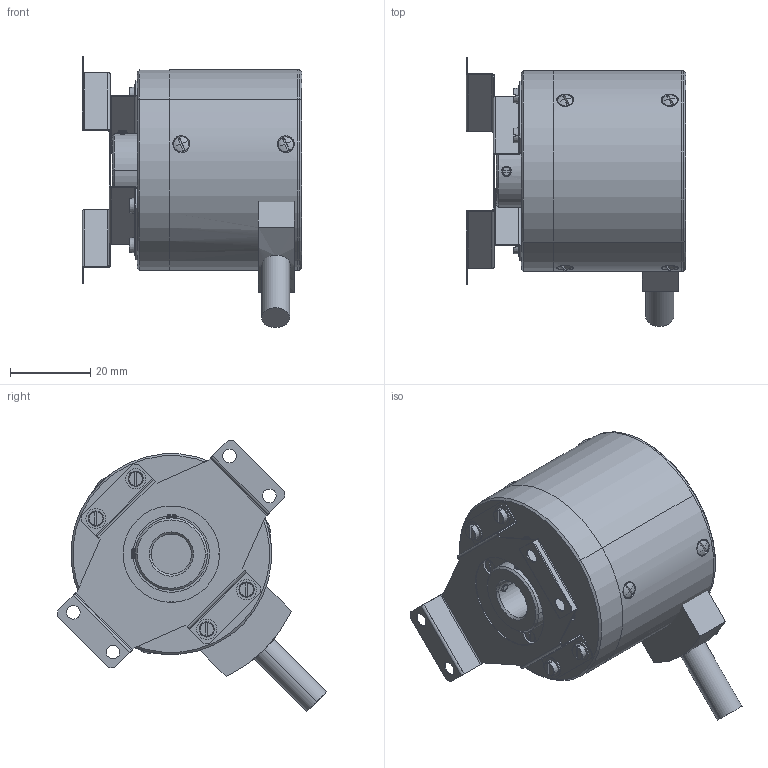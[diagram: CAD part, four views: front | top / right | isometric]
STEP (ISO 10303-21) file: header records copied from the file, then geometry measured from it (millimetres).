
FILE_DESCRIPTION (( 'STEP AP214' ), '1' );
FILE_NAME ('ﾋﾈﾐ-ﾄﾐ250ﾀ.STEP', '2017-05-23T08:56:24', ( '' ), ( '' ), 'SwSTEP 2.0', 'SolidWorks 2013', '' );
FILE_SCHEMA (( 'AUTOMOTIVE_DESIGN' ));
Length unit declared in the file: millimetre
Products named in the file (1): ﾋﾈﾐ-ﾄﾐ250ﾀ
Bounding box: 54.69 x 66.9 x 67.48 mm (x, y, z)
Volume: 55350.2 mm3; surface area: 55938.1 mm2
Topology: 40 solids, 40 shells, 2316 faces, 6260 edges, 3989 vertices
Faces by surface type: cone 891, cylinder 696, plane 329, sphere 248, torus 136, bspline 16
Entity records: 113939 total; most frequent: CARTESIAN_POINT 28779, DIRECTION 13109, ORIENTED_EDGE 12476, EDGE_CURVE 6238, AXIS2_PLACEMENT_3D 5645, VERTEX_POINT 3989, CIRCLE 3344, EDGE_LOOP 2523
